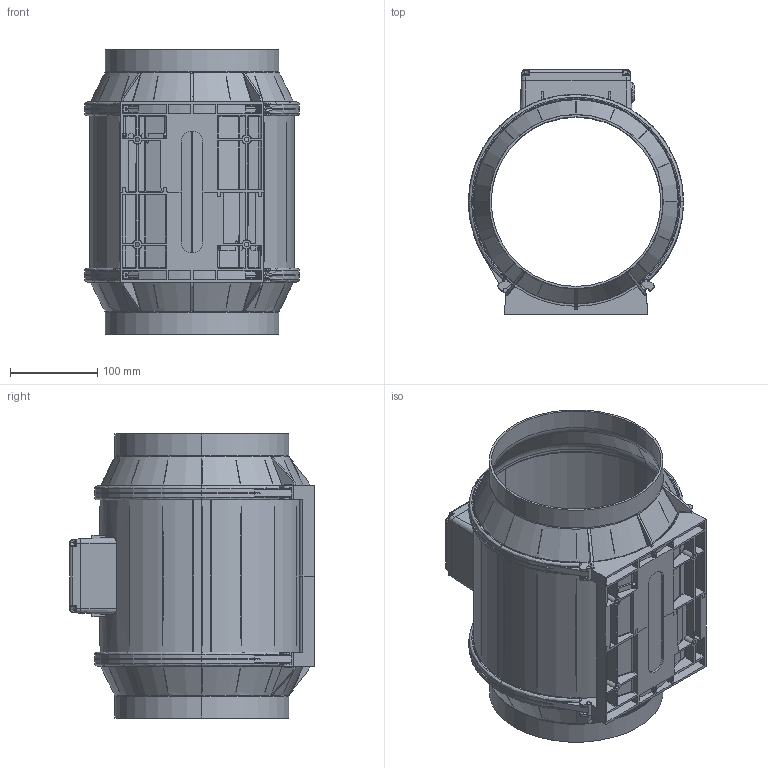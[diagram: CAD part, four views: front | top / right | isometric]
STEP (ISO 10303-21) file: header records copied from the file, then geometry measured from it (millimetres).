
FILE_DESCRIPTION (( 'STEP AP203' ), '1' );
FILE_NAME ('127249-02_EM200E2M01.STEP', '2013-10-24T13:43:50', ( '' ), ( '' ), 'SwSTEP 2.0', 'SolidWorks 2012', '' );
FILE_SCHEMA (( 'CONFIG_CONTROL_DESIGN' ));
Length unit declared in the file: millimetre
Products named in the file (1): 127249-02_EM200E2M01
Bounding box: 245.8 x 280.25 x 325 mm (x, y, z)
Surface area: 632931 mm2 (no closed solid volume)
Topology: 0 solids, 37 shells, 1261 faces, 4829 edges, 3458 vertices
Faces by surface type: plane 481, cylinder 411, torus 181, bspline 125, cone 59, sphere 4
Entity records: 71609 total; most frequent: CARTESIAN_POINT 34737, ORIENTED_EDGE 7292, DIRECTION 6976, EDGE_CURVE 4827, VERTEX_POINT 3458, AXIS2_PLACEMENT_3D 2531, LINE 1914, VECTOR 1914
